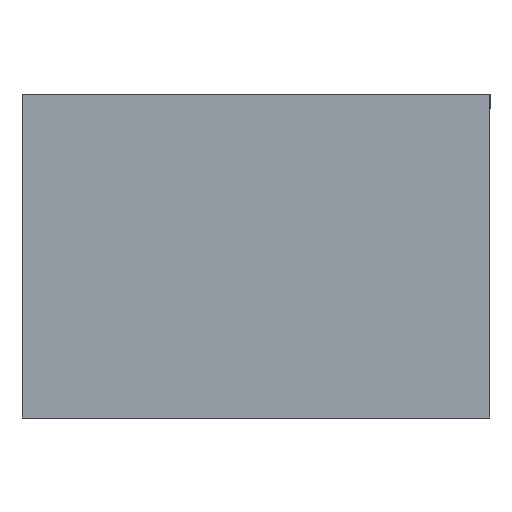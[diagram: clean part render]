
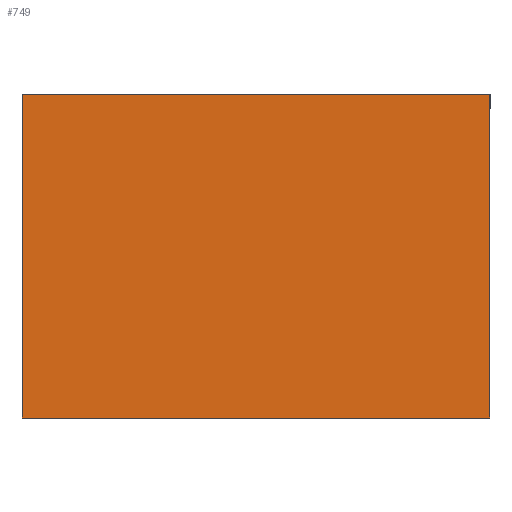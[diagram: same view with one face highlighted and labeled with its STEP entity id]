
A CAD part, front view. The second image highlights one B-rep face of the part: STEP entity #749.
In plain terms, the highlighted planar face has unit normal (0, -1, 0).
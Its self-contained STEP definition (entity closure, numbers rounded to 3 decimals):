
#57 = ORIENTED_EDGE ( 'NONE', *, *, #561, .F. ) ;
#96 = CARTESIAN_POINT ( 'NONE',  ( 32.5, 0., -22.5 ) ) ;
#123 = CARTESIAN_POINT ( 'NONE',  ( -32.5, 0., 22.5 ) ) ;
#159 = DIRECTION ( 'NONE',  ( 1., 0., 0. ) ) ;
#273 = VECTOR ( 'NONE', #159, 1000. ) ;
#303 = LINE ( 'NONE', #123, #273 ) ;
#470 = CARTESIAN_POINT ( 'NONE',  ( 32.5, 0., 22.5 ) ) ;
#537 = PLANE ( 'NONE',  #1177 ) ;
#561 = EDGE_CURVE ( 'NONE', #817, #691, #303, .T. ) ;
#592 = CARTESIAN_POINT ( 'NONE',  ( 0., 0., 0. ) ) ;
#596 = LINE ( 'NONE', #2188, #654 ) ;
#617 = ORIENTED_EDGE ( 'NONE', *, *, #2139, .F. ) ;
#622 = DIRECTION ( 'NONE',  ( 0., 1., 0. ) ) ;
#632 = DIRECTION ( 'NONE',  ( 0., 0., 1. ) ) ;
#654 = VECTOR ( 'NONE', #2387, 1000. ) ;
#691 = VERTEX_POINT ( 'NONE', #470 ) ;
#744 = CARTESIAN_POINT ( 'NONE',  ( -32.5, 0., 22.5 ) ) ;
#749 = ADVANCED_FACE ( 'NONE', ( #2020 ), #537, .F. ) ;
#817 = VERTEX_POINT ( 'NONE', #744 ) ;
#842 = DIRECTION ( 'NONE',  ( 0., 0., 1. ) ) ;
#860 = CARTESIAN_POINT ( 'NONE',  ( -32.5, 0., -22.5 ) ) ;
#865 = EDGE_CURVE ( 'NONE', #1929, #817, #1850, .T. ) ;
#1177 = AXIS2_PLACEMENT_3D ( 'NONE', #592, #622, #632 ) ;
#1215 = EDGE_CURVE ( 'NONE', #691, #1665, #596, .T. ) ;
#1470 = VECTOR ( 'NONE', #2238, 1000. ) ;
#1583 = LINE ( 'NONE', #2074, #1470 ) ;
#1663 = ORIENTED_EDGE ( 'NONE', *, *, #865, .F. ) ;
#1665 = VERTEX_POINT ( 'NONE', #96 ) ;
#1776 = ORIENTED_EDGE ( 'NONE', *, *, #1215, .F. ) ;
#1785 = VECTOR ( 'NONE', #842, 1000. ) ;
#1800 = EDGE_LOOP ( 'NONE', ( #1776, #57, #1663, #617 ) ) ;
#1850 = LINE ( 'NONE', #860, #1785 ) ;
#1929 = VERTEX_POINT ( 'NONE', #2120 ) ;
#2020 = FACE_OUTER_BOUND ( 'NONE', #1800, .T. ) ;
#2074 = CARTESIAN_POINT ( 'NONE',  ( -32.5, 0., -22.5 ) ) ;
#2120 = CARTESIAN_POINT ( 'NONE',  ( -32.5, 0., -22.5 ) ) ;
#2139 = EDGE_CURVE ( 'NONE', #1665, #1929, #1583, .T. ) ;
#2188 = CARTESIAN_POINT ( 'NONE',  ( 32.5, 0., -22.5 ) ) ;
#2238 = DIRECTION ( 'NONE',  ( -1., 0., 0. ) ) ;
#2387 = DIRECTION ( 'NONE',  ( 0., 0., -1. ) ) ;
